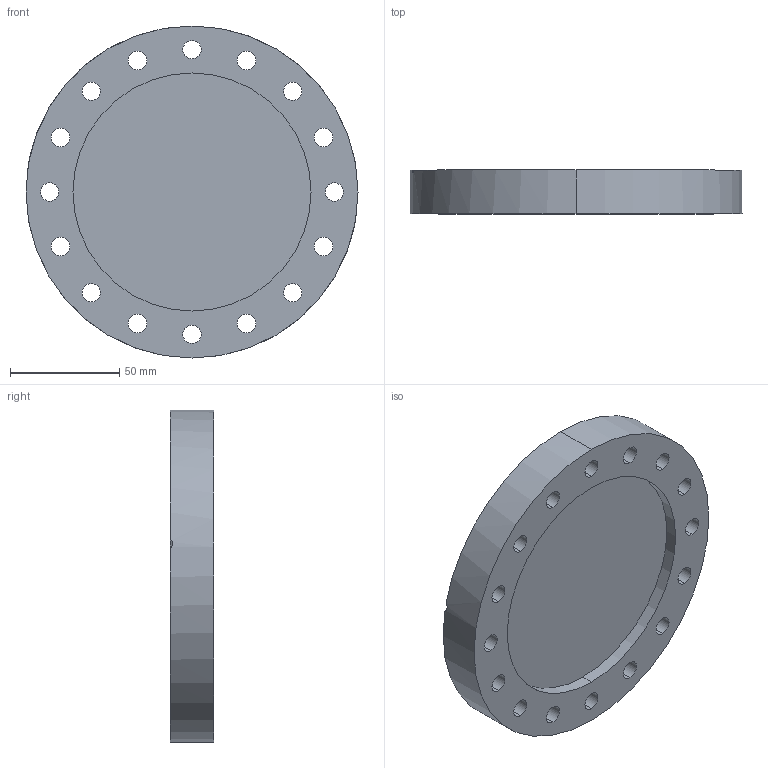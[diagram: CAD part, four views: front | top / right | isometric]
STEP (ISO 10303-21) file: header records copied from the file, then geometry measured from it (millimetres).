
FILE_DESCRIPTION (( 'STEP AP214' ), '1' );
FILE_NAME ('W6BCFD100.STEP', '2021-02-26T12:06:28', ( '' ), ( '' ), 'SwSTEP 2.0', 'SolidWorks 2020', '' );
FILE_SCHEMA (( 'AUTOMOTIVE_DESIGN' ));
Length unit declared in the file: millimetre
Products named in the file (1): W6BCFD100
Bounding box: 152 x 20 x 152 mm (x, y, z)
Volume: 278066.9 mm3; surface area: 69053 mm2
Topology: 2 solids, 2 shells, 64 faces, 164 edges, 106 vertices
Faces by surface type: cylinder 46, plane 8, cone 6, torus 4
Entity records: 2165 total; most frequent: CARTESIAN_POINT 403, DIRECTION 396, ORIENTED_EDGE 328, AXIS2_PLACEMENT_3D 171, EDGE_CURVE 164, VERTEX_POINT 106, CIRCLE 106, EDGE_LOOP 100
